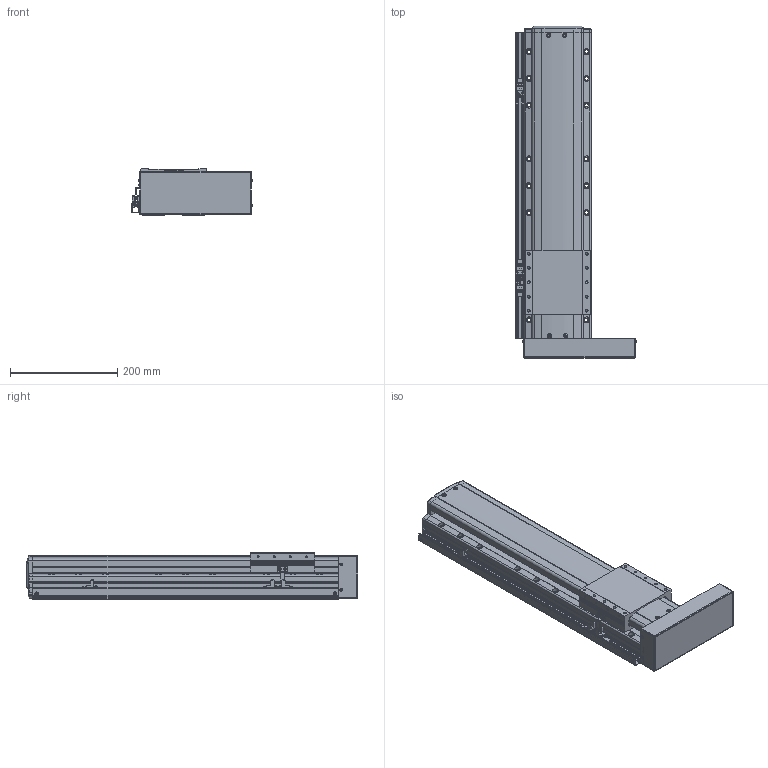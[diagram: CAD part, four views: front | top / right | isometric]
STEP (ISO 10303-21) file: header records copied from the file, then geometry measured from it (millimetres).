
FILE_DESCRIPTION(('STEP AP214'),'1');
FILE_NAME('Z:/Web/3D/PSA125/STP/PSA125-350 (3D)/PSA125ㅁㅁ-350PR+3SL.stp','2014-06-22T23:58:58',(' '),(' '),'Spatial InterOp 3D',' ',' ');
FILE_SCHEMA(('automotive_design'));
Length unit declared in the file: millimetre
Products named in the file (41): 스크루 : Round - M4.0 x 10.0; RRCV-PA120; SLIDE; BASE; FRCV-PA120-1(기준 뿔 제거); RR1500; 스크루 : Round - M4.0 x 6.0; 너트 : Square - M10.0 x 220.7419; BTCV - 60A; 스크루 : Round - M3.0 x 6.0; EE-SX674; SBK-SX674-352; M3.0 x 6.0; SRL-16x17-380L; SGD-PA95; 스크루 : Round - M3.0 x 8.0
Bounding box: 225.06 x 618.6 x 86 mm (x, y, z)
Volume: 5610857.9 mm3; surface area: 567581.2 mm2
Topology: 41 solids, 41 shells, 2439 faces, 6493 edges, 4166 vertices
Faces by surface type: plane 1407, cylinder 676, cone 236, sphere 64, bspline 31, torus 25
Entity records: 97432 total; most frequent: CARTESIAN_POINT 15823, DIRECTION 12973, ORIENTED_EDGE 12726, EDGE_CURVE 6363, AXIS2_PLACEMENT_3D 4329, LINE 4315, VECTOR 4315, VERTEX_POINT 4166
